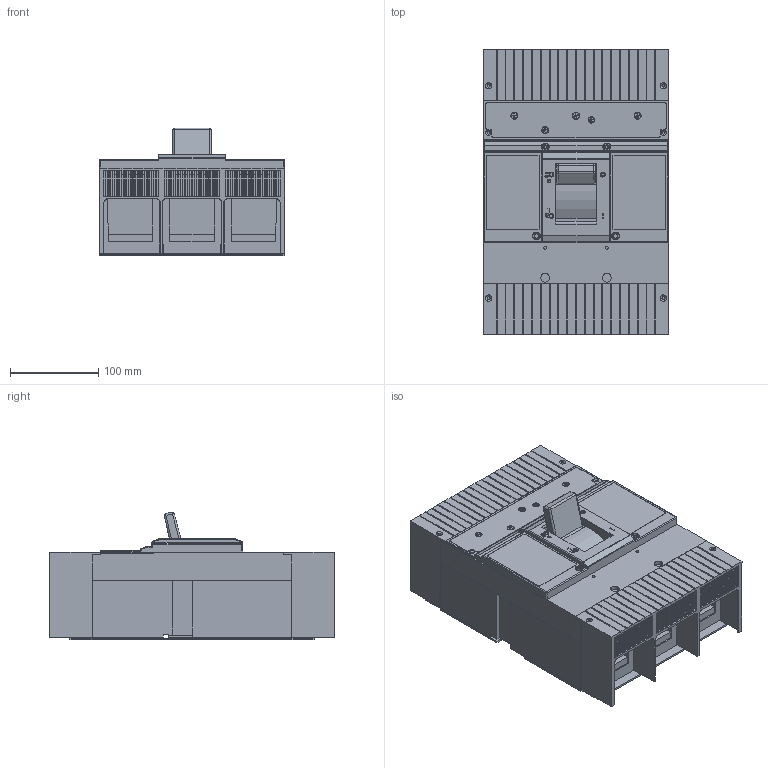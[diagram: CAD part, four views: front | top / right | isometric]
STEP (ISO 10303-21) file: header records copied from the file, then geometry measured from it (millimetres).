
FILE_DESCRIPTION (( 'STEP AP203' ), '1' );
FILE_NAME ('DWB800-IWB800.STEP', '2021-02-22T12:00:32', ( 'Usuário do Windows' ), ( 'WEG Equipamentos Elétricos' ), 'SwSTEP 2.0', 'SolidWorks 2018', '' );
FILE_SCHEMA (( 'CONFIG_CONTROL_DESIGN' ));
Length unit declared in the file: millimetre
Products named in the file (2): DWB800-IWB800
Bounding box: 210.67 x 323 x 145.05 mm (x, y, z)
Surface area: 856700.7 mm2 (no closed solid volume)
Topology: 0 solids, 41 shells, 3495 faces, 9896 edges, 6362 vertices
Faces by surface type: plane 2051, cylinder 924, cone 355, bspline 82, torus 48, sphere 35
Entity records: 118480 total; most frequent: CARTESIAN_POINT 28778, ORIENTED_EDGE 19667, DIRECTION 17590, EDGE_CURVE 9851, LINE 6754, VECTOR 6754, VERTEX_POINT 6362, AXIS2_PLACEMENT_3D 5418
